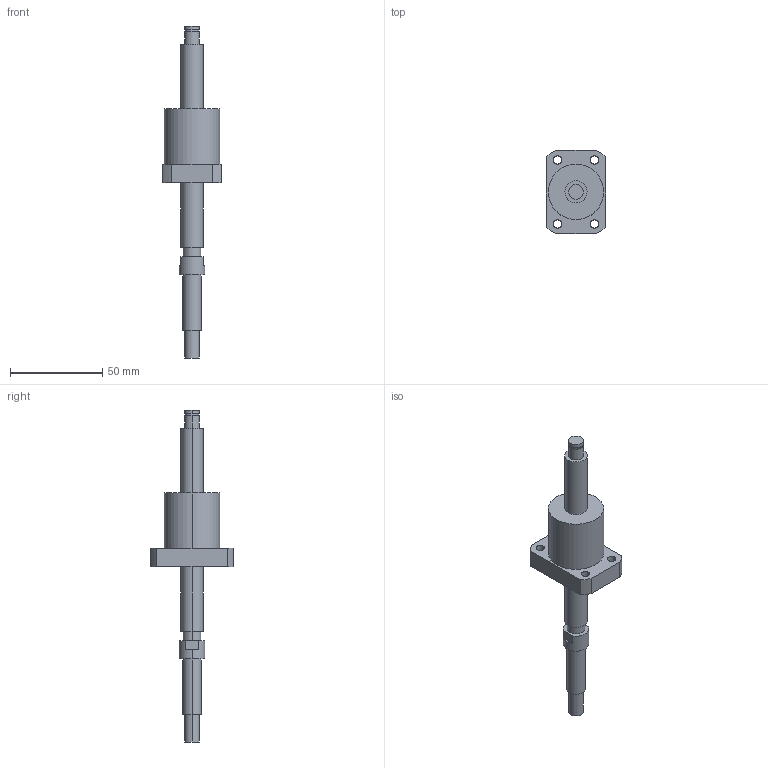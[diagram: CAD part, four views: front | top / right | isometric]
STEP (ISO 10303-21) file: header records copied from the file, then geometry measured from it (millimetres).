
FILE_DESCRIPTION((''),'2;1');
FILE_NAME('R12-5B1-FSW-110-180','2008-03-28T',('mahdi'),(''),'PRO/ENGINEER BY PARAMETRIC TECHNOLOGY CORPORATION, 2005070','PRO/ENGINEER BY PARAMETRIC TECHNOLOGY CORPORATION, 2005070','');
FILE_SCHEMA(('CONFIG_CONTROL_DESIGN'));
Length unit declared in the file: millimetre
Products named in the file (1): R12-5B1-FSW-110-180
Bounding box: 32 x 45 x 180 mm (x, y, z)
Volume: 47484.2 mm3; surface area: 12678.1 mm2
Topology: 1 solids, 1 shells, 64 faces, 144 edges, 96 vertices
Faces by surface type: cylinder 40, plane 24
Entity records: 1886 total; most frequent: DIRECTION 356, CARTESIAN_POINT 304, ORIENTED_EDGE 288, AXIS2_PLACEMENT_3D 148, EDGE_CURVE 144, VERTEX_POINT 96, EDGE_LOOP 86, CIRCLE 84
